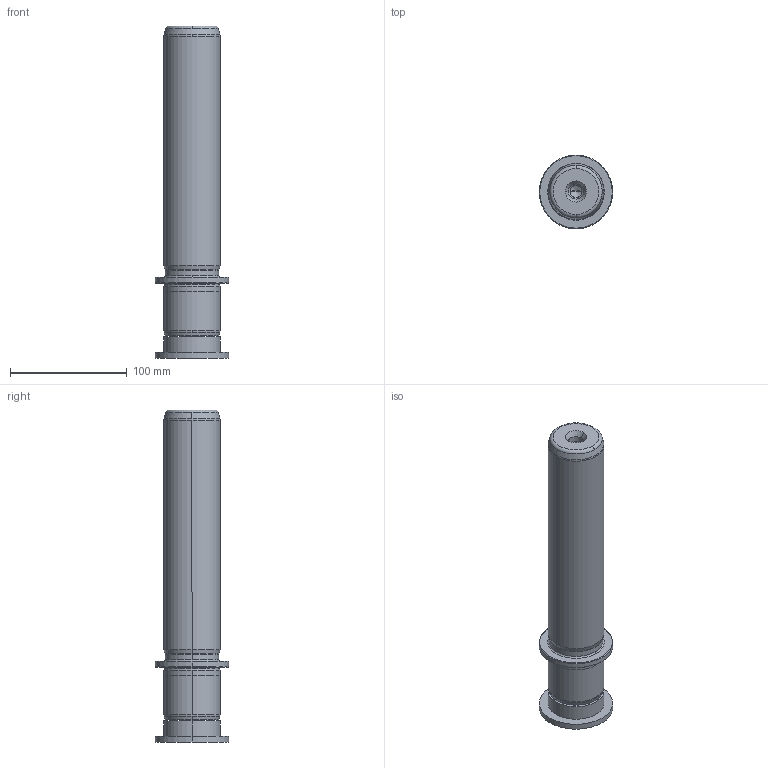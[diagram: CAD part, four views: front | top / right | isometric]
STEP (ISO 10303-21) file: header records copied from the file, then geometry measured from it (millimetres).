
FILE_DESCRIPTION((''),'2;1');
FILE_NAME('P22_048_220.stp','2009-11-02T10:39:40',(''),(''),'Mechanical Desktop 2009','Mechanical Desktop 2009',', , ');
FILE_SCHEMA(('CONFIG_CONTROL_DESIGN'));
Length unit declared in the file: millimetre
Products named in the file (2): Product; blmdl1
Assembly tree (1 placements, depth 2):
  Product
    blmdl1
Bounding box: 63 x 63 x 284 mm (x, y, z)
Volume: 515841.6 mm3; surface area: 60656 mm2
Topology: 3 solids, 3 shells, 99 faces, 237 edges, 149 vertices
Faces by surface type: cylinder 32, cone 28, plane 19, torus 10, bspline 10
Entity records: 3419 total; most frequent: CARTESIAN_POINT 923, DIRECTION 570, ORIENTED_EDGE 466, AXIS2_PLACEMENT_3D 246, EDGE_CURVE 233, CIRCLE 155, VERTEX_POINT 149, EDGE_LOOP 110
